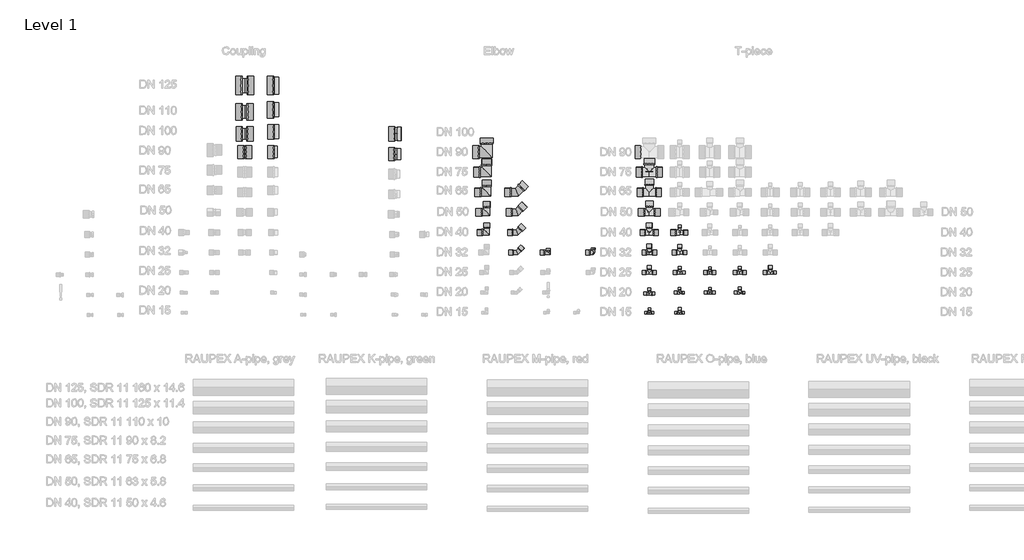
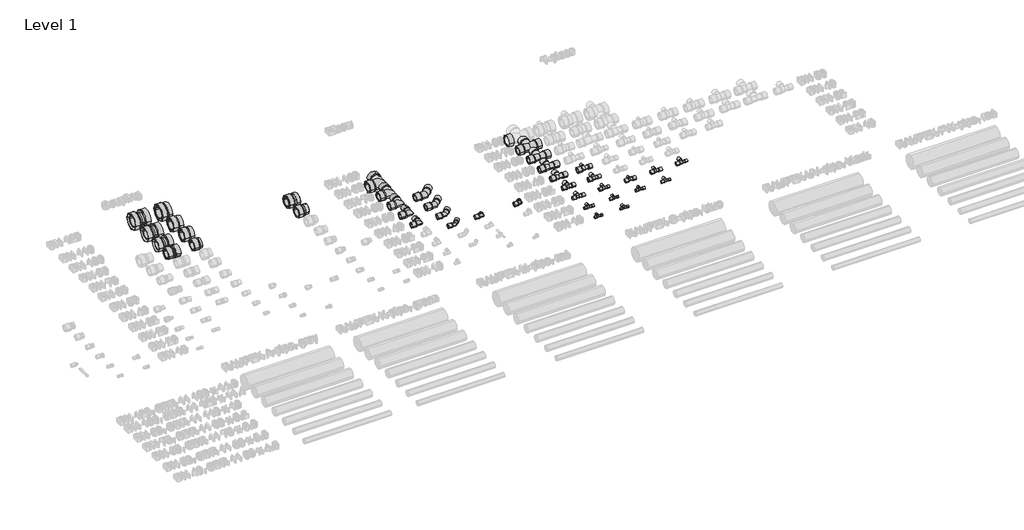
# One storey, part 4 of 16: 128 pipe fittings.
"""IFC4 building model written with IfcOpenShell, lengths in millimetres."""

from ifc_helpers import new_model, si_unit, origin, place, context, project, spatial, transform, mapped, element, save
from components import pipe_fitting_d056a93d, pipe_fitting_f6b20089, pipe_fitting_60fb9633, pipe_fitting_58d926c8, coupling_union_655df743, coupling_union_132477e5, coupling_union_b98a8659, coupling_union_d5728b00, elbow_sdr11_lx_elbow_sdr_11_lx_6126e5dd, elbow_sdr11_lx_elbow_sdr_11_lx_f17d2660, elbow_sdr11_lx_elbow_sdr_11_lx_ce320dea, elbow_sdr11_lx_elbow_sdr_11_lx_cb8a91fe, elbow_sdr11_lx_elbow_sdr_11_lx_393a3960, elbow_sdr11_lx_elbow_sdr_11_rx_da30d1f9, elbow_sdr11_lx_elbow_sdr_11_rx_8269fb62, elbow_sdr11_lx_elbow_sdr_11_rx_9d03f633, elbow_sdr11_lx_elbow_sdr_11_rx_2fe19cfb, elbow_adapter_sdr11_lx_elbow_adapter_sdr_11_lx_9b6015cc, elbow_adapter_with_union_nut_sdr_11_lx_84a4bca8, male_adapter_external_thread_sdr11_male_adapter_rx_6bbcd7e3, male_adapter_external_thread_sdr11_male_adapter_rx_e6c9b75a, sleeve_lx_11_2e170aa1, sleeve_lx_11_3fcb8560, sleeve_lx_11_f19e3dbf, sleeve_lx_11_b9b419b6, sleeve_lx_11_e5eab1a7, sleeve_lx_11_ddfe2885, sleeve_rx_11_7b1edd19, sleeve_rx_11_d7843ee1, sleeve_rx_11_d7b6a074, sleeve_rx_11_833a9f47, sleeve_rx_11_cce1b402, sleeve_rx_11_53dfce0b, t_piece_sdr11_lx_0c2399d6, t_piece_sdr11_lx_7e9e5686, t_piece_sdr11_lx_2a0a5856, t_piece_sdr11_lx_9701a7f1, t_piece_sdr11_lx_c61b86e7, t_piece_sdr11_lx_81dca7c0, t_piece_sdr11_lx_fe109eb9, t_piece_sdr11_lx_d24ca570, t_piece_sdr11_lx_0c38f34f, t_piece_sdr11_lx_75e13a52, t_piece_sdr11_lx_df0b7dc8, t_piece_sdr11_lx_472ff839, t_piece_sdr11_lx_571a734e, t_piece_sdr11_lx_4579e213, t_piece_sdr11_lx_62f51ed1, t_piece_sdr11_lx_d5a7428d, t_piece_sdr11_lx_t_piece_sdr11_rx_1e658908, t_piece_sdr11_lx_t_piece_sdr11_rx_ffd7d234

model = new_model("IFC4")

# Units and contexts
model_context = context("Model", 3, world=origin())
ifc_project = project(units=[si_unit("LENGTHUNIT", "METRE", prefix="MILLI")], contexts=[model_context])

# Site, building, storey
site = spatial("IfcSite", under=ifc_project)
building = spatial("IfcBuilding", under=site)
storey = spatial("IfcBuildingStorey", under=building, Name="Level 1", Elevation=0.0)

# Pipe fittings
placement = place(None, origin())
pipe_fitting_shape = pipe_fitting_d056a93d(model_context)
element("IfcPipeFitting", 1, ObjectType="Adapter with welding end : A welding RX", at=placement, inside=storey, context=model_context, shape_type="MappedRepresentation", body=[
    mapped(pipe_fitting_shape, transform((12403.1112925, 2700.5489138, 0.0), x_axis=(1.0, 0.0, 0.0), y_axis=(0.0, 1.0, 0.0), z_axis=(0.0, 0.0, 1.0))),
])
pipe_fitting_2_shape = pipe_fitting_f6b20089(model_context)
element("IfcPipeFitting", 2, ObjectType="Adapter with welding end : A welding RX", at=placement, inside=storey, context=model_context, shape_type="MappedRepresentation", body=[
    mapped(pipe_fitting_2_shape, transform((12403.1112925, 2040.5489138, 0.0), x_axis=(1.0, 0.0, 0.0), y_axis=(0.0, 1.0, 0.0), z_axis=(0.0, 0.0, 1.0))),
])
pipe_fitting_3_shape = pipe_fitting_60fb9633(model_context)
element("IfcPipeFitting", 3, ObjectType="Adapter with welding end : A welding RX", at=placement, inside=storey, context=model_context, shape_type="MappedRepresentation", body=[
    mapped(pipe_fitting_3_shape, transform((12403.1112925, 2240.5489138, 0.0), x_axis=(1.0, 0.0, 0.0), y_axis=(0.0, 1.0, 0.0), z_axis=(0.0, 0.0, 1.0))),
])
pipe_fitting_4_shape = pipe_fitting_58d926c8(model_context)
element("IfcPipeFitting", 4, ObjectType="Adapter with welding end : A welding RX", at=placement, inside=storey, context=model_context, shape_type="MappedRepresentation", body=[
    mapped(pipe_fitting_4_shape, transform((12403.1112925, 2460.5489138, 0.0), x_axis=(1.0, 0.0, 0.0), y_axis=(0.0, 1.0, 0.0), z_axis=(0.0, 0.0, 1.0))),
])
coupling_union_shape = coupling_union_655df743(model_context)
element("IfcPipeFitting", 5, ObjectType="Coupling union : C EQ SDR11 RX", at=placement, inside=storey, context=model_context, shape_type="MappedRepresentation", body=[
    mapped(coupling_union_shape, transform((12103.1112925, 2700.5489138, 0.0), x_axis=(1.0, 0.0, 0.0), y_axis=(0.0, 1.0, 0.0), z_axis=(0.0, 0.0, 1.0))),
])
coupling_union_2_shape = coupling_union_132477e5(model_context)
element("IfcPipeFitting", 6, ObjectType="Coupling union : C EQ SDR11 RX", at=placement, inside=storey, context=model_context, shape_type="MappedRepresentation", body=[
    mapped(coupling_union_2_shape, transform((12103.1112925, 2040.5489138, 0.0), x_axis=(1.0, 0.0, 0.0), y_axis=(0.0, 1.0, 0.0), z_axis=(0.0, 0.0, 1.0))),
])
coupling_union_3_shape = coupling_union_b98a8659(model_context)
element("IfcPipeFitting", 7, ObjectType="Coupling union : C EQ SDR11 RX", at=placement, inside=storey, context=model_context, shape_type="MappedRepresentation", body=[
    mapped(coupling_union_3_shape, transform((12103.1112925, 2220.5489138, 0.0), x_axis=(1.0, 0.0, 0.0), y_axis=(0.0, 1.0, 0.0), z_axis=(0.0, 0.0, 1.0))),
])
coupling_union_4_shape = coupling_union_d5728b00(model_context)
element("IfcPipeFitting", 8, ObjectType="Coupling union : C EQ SDR11 RX", at=placement, inside=storey, context=model_context, shape_type="MappedRepresentation", body=[
    mapped(coupling_union_4_shape, transform((12103.1112925, 2440.5489138, 0.0), x_axis=(1.0, 0.0, 0.0), y_axis=(0.0, 1.0, 0.0), z_axis=(0.0, 0.0, 1.0))),
])
elbow_sdr11_lx_elbow_sdr_11_lx_shape = elbow_sdr11_lx_elbow_sdr_11_lx_6126e5dd(model_context)
element("IfcPipeFitting", 9, ObjectType="Elbow SDR11 LX : Elbow SDR 11 LX", at=placement, inside=storey, context=model_context, shape_type="MappedRepresentation", body=[
    mapped(elbow_sdr11_lx_elbow_sdr_11_lx_shape, transform((14509.6158086, 1240.5489138, 0.0), x_axis=(1.0, 0.0, 0.0), y_axis=(0.0, 1.0, 0.0), z_axis=(0.0, 0.0, 1.0))),
])
elbow_sdr11_lx_elbow_sdr_11_lx_2_shape = elbow_sdr11_lx_elbow_sdr_11_lx_f17d2660(model_context)
element("IfcPipeFitting", 10, ObjectType="Elbow SDR11 LX : Elbow SDR 11 LX", at=placement, inside=storey, context=model_context, shape_type="MappedRepresentation", body=[
    mapped(elbow_sdr11_lx_elbow_sdr_11_lx_2_shape, transform((14509.6158086, 1440.5489138, 0.0), x_axis=(1.0, 0.0, 0.0), y_axis=(0.0, 1.0, 0.0), z_axis=(0.0, 0.0, 1.0))),
])
elbow_sdr11_lx_elbow_sdr_11_lx_3_shape = elbow_sdr11_lx_elbow_sdr_11_lx_ce320dea(model_context)
element("IfcPipeFitting", 11, ObjectType="Elbow SDR11 LX : Elbow SDR 11 LX", at=placement, inside=storey, context=model_context, shape_type="MappedRepresentation", body=[
    mapped(elbow_sdr11_lx_elbow_sdr_11_lx_3_shape, transform((14809.6158086, 1040.5489138, 0.0), x_axis=(1.0, 0.0, 0.0), y_axis=(0.0, 1.0, 0.0), z_axis=(0.0, 0.0, 1.0))),
])
elbow_sdr11_lx_elbow_sdr_11_lx_4_shape = elbow_sdr11_lx_elbow_sdr_11_lx_cb8a91fe(model_context)
element("IfcPipeFitting", 12, ObjectType="Elbow SDR11 LX : Elbow SDR 11 LX", at=placement, inside=storey, context=model_context, shape_type="MappedRepresentation", body=[
    mapped(elbow_sdr11_lx_elbow_sdr_11_lx_4_shape, transform((14809.6158086, 1240.5489138, 0.0), x_axis=(1.0, 0.0, 0.0), y_axis=(0.0, 1.0, 0.0), z_axis=(0.0, 0.0, 1.0))),
])
elbow_sdr11_lx_elbow_sdr_11_lx_5_shape = elbow_sdr11_lx_elbow_sdr_11_lx_393a3960(model_context)
element("IfcPipeFitting", 13, ObjectType="Elbow SDR11 LX : Elbow SDR 11 LX", at=placement, inside=storey, context=model_context, shape_type="MappedRepresentation", body=[
    mapped(elbow_sdr11_lx_elbow_sdr_11_lx_5_shape, transform((14809.6158086, 1440.5489138, 0.0), x_axis=(1.0, 0.0, 0.0), y_axis=(0.0, 1.0, 0.0), z_axis=(0.0, 0.0, 1.0))),
])
elbow_sdr11_lx_elbow_sdr_11_rx_shape = elbow_sdr11_lx_elbow_sdr_11_rx_da30d1f9(model_context)
element("IfcPipeFitting", 14, ObjectType="Elbow SDR11 LX : Elbow SDR 11 RX", at=placement, inside=storey, context=model_context, shape_type="MappedRepresentation", body=[
    mapped(elbow_sdr11_lx_elbow_sdr_11_rx_shape, transform((14509.6158086, 1640.5489138, 0.0), x_axis=(1.0, 0.0, 0.0), y_axis=(0.0, 1.0, 0.0), z_axis=(0.0, 0.0, 1.0))),
])
elbow_sdr11_lx_elbow_sdr_11_rx_2_shape = elbow_sdr11_lx_elbow_sdr_11_rx_8269fb62(model_context)
element("IfcPipeFitting", 15, ObjectType="Elbow SDR11 LX : Elbow SDR 11 RX", at=placement, inside=storey, context=model_context, shape_type="MappedRepresentation", body=[
    mapped(elbow_sdr11_lx_elbow_sdr_11_rx_2_shape, transform((14509.6158086, 1840.5489138, 0.0), x_axis=(1.0, 0.0, 0.0), y_axis=(0.0, 1.0, 0.0), z_axis=(0.0, 0.0, 1.0))),
])
elbow_sdr11_lx_elbow_sdr_11_rx_3_shape = elbow_sdr11_lx_elbow_sdr_11_rx_9d03f633(model_context)
element("IfcPipeFitting", 16, ObjectType="Elbow SDR11 LX : Elbow SDR 11 RX", at=placement, inside=storey, context=model_context, shape_type="MappedRepresentation", body=[
    mapped(elbow_sdr11_lx_elbow_sdr_11_rx_3_shape, transform((14509.6158086, 2040.5489138, 0.0), x_axis=(1.0, 0.0, 0.0), y_axis=(0.0, 1.0, 0.0), z_axis=(0.0, 0.0, 1.0))),
])
elbow_sdr11_lx_elbow_sdr_11_rx_4_shape = elbow_sdr11_lx_elbow_sdr_11_rx_2fe19cfb(model_context)
element("IfcPipeFitting", 17, ObjectType="Elbow SDR11 LX : Elbow SDR 11 RX", at=placement, inside=storey, context=model_context, shape_type="MappedRepresentation", body=[
    mapped(elbow_sdr11_lx_elbow_sdr_11_rx_4_shape, transform((14809.6158086, 1640.5489138, 0.0), x_axis=(1.0, 0.0, 0.0), y_axis=(0.0, 1.0, 0.0), z_axis=(0.0, 0.0, 1.0))),
])
elbow_adapter_sdr11_lx_elbow_adapter_sdr_11_lx_shape = elbow_adapter_sdr11_lx_elbow_adapter_sdr_11_lx_9b6015cc(model_context)
element("IfcPipeFitting", 18, ObjectType="Elbow adapter SDR11 LX : Elbow adapter SDR 11 LX", at=placement, inside=storey, context=model_context, shape_type="MappedRepresentation", body=[
    mapped(elbow_adapter_sdr11_lx_elbow_adapter_sdr_11_lx_shape, transform((15121.1751687, 1040.5489138, 0.0), x_axis=(1.0, 0.0, 0.0), y_axis=(0.0, 1.0, 0.0), z_axis=(0.0, 0.0, 1.0))),
])
elbow_adapter_with_union_nut_sdr_11_lx_shape = elbow_adapter_with_union_nut_sdr_11_lx_84a4bca8(model_context)
element("IfcPipeFitting", 19, ObjectType="Elbow adapter with union nut SDR11 LX  : Elbow adapter with union nut SDR 11 LX", at=placement, inside=storey, context=model_context, shape_type="MappedRepresentation", body=[
    mapped(elbow_adapter_with_union_nut_sdr_11_lx_shape, transform((15569.0164475, 1040.5489138, 0.0), x_axis=(1.0, 0.0, 0.0), y_axis=(0.0, 1.0, 0.0), z_axis=(0.0, 0.0, 1.0))),
])
male_adapter_external_thread_sdr11_male_adapter_rx_shape = male_adapter_external_thread_sdr11_male_adapter_rx_6bbcd7e3(model_context)
element("IfcPipeFitting", 20, ObjectType="Male adapter external thread SDR11 : Male adapter RX", at=placement, inside=storey, context=model_context, shape_type="MappedRepresentation", body=[
    mapped(male_adapter_external_thread_sdr11_male_adapter_rx_shape, transform((13596.8014725, 2020.5489138, 0.0), x_axis=(1.0, 0.0, 0.0), y_axis=(0.0, 1.0, 0.0), z_axis=(0.0, 0.0, 1.0))),
])
male_adapter_external_thread_sdr11_male_adapter_rx_2_shape = male_adapter_external_thread_sdr11_male_adapter_rx_e6c9b75a(model_context)
element("IfcPipeFitting", 21, ObjectType="Male adapter external thread SDR11 : Male adapter RX", at=placement, inside=storey, context=model_context, shape_type="MappedRepresentation", body=[
    mapped(male_adapter_external_thread_sdr11_male_adapter_rx_2_shape, transform((13596.8014725, 2220.5489138, 0.0), x_axis=(1.0, 0.0, 0.0), y_axis=(0.0, 1.0, 0.0), z_axis=(0.0, 0.0, 1.0))),
])
sleeve_lx_11_shape = sleeve_lx_11_2e170aa1(model_context)
element("IfcPipeFitting", 22, ObjectType="Sleeve : LX 11", at=placement, inside=storey, context=model_context, shape_type="MappedRepresentation", body=[
    mapped(sleeve_lx_11_shape, transform((16056.7141419, 840.5489138, 0.0), x_axis=(1.0, 0.0, 0.0), y_axis=(0.0, 1.0, 0.0), z_axis=(0.0, 0.0, 1.0))),
])
element("IfcPipeFitting", 23, ObjectType="Sleeve : LX 11", at=placement, inside=storey, context=model_context, shape_type="MappedRepresentation", body=[
    mapped(sleeve_lx_11_shape, transform((16126.2141419, 875.5489138, 0.0), x_axis=(0.0, 1.0, 0.0), y_axis=(-1.0, 0.0, 0.0), z_axis=(0.0, 0.0, 1.0))),
])
element("IfcPipeFitting", 24, ObjectType="Sleeve : LX 11", at=placement, inside=storey, context=model_context, shape_type="MappedRepresentation", body=[
    mapped(sleeve_lx_11_shape, transform((16160.7141419, 840.5489138, 0.0), x_axis=(1.0, 0.0, 0.0), y_axis=(0.0, 1.0, 0.0), z_axis=(0.0, 0.0, 1.0))),
])
element("IfcPipeFitting", 25, ObjectType="Sleeve : LX 11", at=placement, inside=storey, context=model_context, shape_type="MappedRepresentation", body=[
    mapped(sleeve_lx_11_shape, transform((16361.4141419, 840.5489138, 0.0), x_axis=(1.0, 0.0, 0.0), y_axis=(0.0, 1.0, 0.0), z_axis=(0.0, 0.0, 1.0))),
])
element("IfcPipeFitting", 26, ObjectType="Sleeve : LX 11", at=placement, inside=storey, context=model_context, shape_type="MappedRepresentation", body=[
    mapped(sleeve_lx_11_shape, transform((16426.2141419, 1082.5489138, 0.0), x_axis=(0.0, 1.0, 0.0), y_axis=(-1.0, 0.0, 0.0), z_axis=(0.0, 0.0, 1.0))),
])
element("IfcPipeFitting", 27, ObjectType="Sleeve : LX 11", at=placement, inside=storey, context=model_context, shape_type="MappedRepresentation", body=[
    mapped(sleeve_lx_11_shape, transform((16461.2141419, 1040.5489138, 0.0), x_axis=(1.0, 0.0, 0.0), y_axis=(0.0, 1.0, 0.0), z_axis=(0.0, 0.0, 1.0))),
])
element("IfcPipeFitting", 28, ObjectType="Sleeve : LX 11", at=placement, inside=storey, context=model_context, shape_type="MappedRepresentation", body=[
    mapped(sleeve_lx_11_shape, transform((16665.2141419, 840.5489138, 0.0), x_axis=(1.0, 0.0, 0.0), y_axis=(0.0, 1.0, 0.0), z_axis=(0.0, 0.0, 1.0))),
])
element("IfcPipeFitting", 29, ObjectType="Sleeve : LX 11", at=placement, inside=storey, context=model_context, shape_type="MappedRepresentation", body=[
    mapped(sleeve_lx_11_shape, transform((16752.2141419, 840.5489138, 0.0), x_axis=(1.0, 0.0, 0.0), y_axis=(0.0, 1.0, 0.0), z_axis=(0.0, 0.0, 1.0))),
])
element("IfcPipeFitting", 30, ObjectType="Sleeve : LX 11", at=placement, inside=storey, context=model_context, shape_type="MappedRepresentation", body=[
    mapped(sleeve_lx_11_shape, transform((16961.7141419, 840.5489138, 0.0), x_axis=(1.0, 0.0, 0.0), y_axis=(0.0, 1.0, 0.0), z_axis=(0.0, 0.0, 1.0))),
])
element("IfcPipeFitting", 31, ObjectType="Sleeve : LX 11", at=placement, inside=storey, context=model_context, shape_type="MappedRepresentation", body=[
    mapped(sleeve_lx_11_shape, transform((17055.7141419, 840.5489138, 0.0), x_axis=(1.0, 0.0, 0.0), y_axis=(0.0, 1.0, 0.0), z_axis=(0.0, 0.0, 1.0))),
])
element("IfcPipeFitting", 32, ObjectType="Sleeve : LX 11", at=placement, inside=storey, context=model_context, shape_type="MappedRepresentation", body=[
    mapped(sleeve_lx_11_shape, transform((17256.7141419, 840.5489138, 0.0), x_axis=(1.0, 0.0, 0.0), y_axis=(0.0, 1.0, 0.0), z_axis=(0.0, 0.0, 1.0))),
])
element("IfcPipeFitting", 33, ObjectType="Sleeve : LX 11", at=placement, inside=storey, context=model_context, shape_type="MappedRepresentation", body=[
    mapped(sleeve_lx_11_shape, transform((17326.2141419, 875.9489138, 0.0), x_axis=(0.0, 1.0, 0.0), y_axis=(-1.0, 0.0, 0.0), z_axis=(0.0, 0.0, 1.0))),
])
sleeve_lx_11_2_shape = sleeve_lx_11_3fcb8560(model_context)
element("IfcPipeFitting", 34, ObjectType="Sleeve : LX 11", at=placement, inside=storey, context=model_context, shape_type="MappedRepresentation", body=[
    mapped(sleeve_lx_11_2_shape, transform((16081.2141419, 440.5489138, 0.0), x_axis=(1.0, 0.0, 0.0), y_axis=(0.0, 1.0, 0.0), z_axis=(0.0, 0.0, 1.0))),
])
element("IfcPipeFitting", 35, ObjectType="Sleeve : LX 11", at=placement, inside=storey, context=model_context, shape_type="MappedRepresentation", body=[
    mapped(sleeve_lx_11_2_shape, transform((16126.2141419, 468.9489138, 0.0), x_axis=(0.0, 1.0, 0.0), y_axis=(-1.0, 0.0, 0.0), z_axis=(0.0, 0.0, 1.0))),
])
element("IfcPipeFitting", 36, ObjectType="Sleeve : LX 11", at=placement, inside=storey, context=model_context, shape_type="MappedRepresentation", body=[
    mapped(sleeve_lx_11_2_shape, transform((16151.2141419, 440.5489138, 0.0), x_axis=(1.0, 0.0, 0.0), y_axis=(0.0, 1.0, 0.0), z_axis=(0.0, 0.0, 1.0))),
])
element("IfcPipeFitting", 37, ObjectType="Sleeve : LX 11", at=placement, inside=storey, context=model_context, shape_type="MappedRepresentation", body=[
    mapped(sleeve_lx_11_2_shape, transform((16426.2141419, 671.6489138, 0.0), x_axis=(0.0, 1.0, 0.0), y_axis=(-1.0, 0.0, 0.0), z_axis=(0.0, 0.0, 1.0))),
])
element("IfcPipeFitting", 38, ObjectType="Sleeve : LX 11", at=placement, inside=storey, context=model_context, shape_type="MappedRepresentation", body=[
    mapped(sleeve_lx_11_2_shape, transform((16451.2141419, 640.5489138, 0.0), x_axis=(1.0, 0.0, 0.0), y_axis=(0.0, 1.0, 0.0), z_axis=(0.0, 0.0, 1.0))),
])
element("IfcPipeFitting", 39, ObjectType="Sleeve : LX 11", at=placement, inside=storey, context=model_context, shape_type="MappedRepresentation", body=[
    mapped(sleeve_lx_11_2_shape, transform((16726.2141419, 671.6489138, 0.0), x_axis=(0.0, 1.0, 0.0), y_axis=(-1.0, 0.0, 0.0), z_axis=(0.0, 0.0, 1.0))),
])
element("IfcPipeFitting", 40, ObjectType="Sleeve : LX 11", at=placement, inside=storey, context=model_context, shape_type="MappedRepresentation", body=[
    mapped(sleeve_lx_11_2_shape, transform((16726.2141419, 875.5489138, 0.0), x_axis=(0.0, 1.0, 0.0), y_axis=(-1.0, 0.0, 0.0), z_axis=(0.0, 0.0, 1.0))),
])
element("IfcPipeFitting", 41, ObjectType="Sleeve : LX 11", at=placement, inside=storey, context=model_context, shape_type="MappedRepresentation", body=[
    mapped(sleeve_lx_11_2_shape, transform((16377.7141419, 440.5489138, 0.0), x_axis=(1.0, 0.0, 0.0), y_axis=(0.0, 1.0, 0.0), z_axis=(0.0, 0.0, 1.0))),
])
element("IfcPipeFitting", 42, ObjectType="Sleeve : LX 11", at=placement, inside=storey, context=model_context, shape_type="MappedRepresentation", body=[
    mapped(sleeve_lx_11_2_shape, transform((16454.7141419, 440.5489138, 0.0), x_axis=(1.0, 0.0, 0.0), y_axis=(0.0, 1.0, 0.0), z_axis=(0.0, 0.0, 1.0))),
])
element("IfcPipeFitting", 43, ObjectType="Sleeve : LX 11", at=placement, inside=storey, context=model_context, shape_type="MappedRepresentation", body=[
    mapped(sleeve_lx_11_2_shape, transform((17054.2141419, 640.5489138, 0.0), x_axis=(1.0, 0.0, 0.0), y_axis=(0.0, 1.0, 0.0), z_axis=(0.0, 0.0, 1.0))),
])
sleeve_lx_11_3_shape = sleeve_lx_11_f19e3dbf(model_context)
element("IfcPipeFitting", 44, ObjectType="Sleeve : LX 11", at=placement, inside=storey, context=model_context, shape_type="MappedRepresentation", body=[
    mapped(sleeve_lx_11_3_shape, transform((16070.7141419, 630.5489138, 0.0), x_axis=(1.0, 0.0, 0.0), y_axis=(0.0, 1.0, 0.0), z_axis=(0.0, 0.0, 1.0))),
])
element("IfcPipeFitting", 45, ObjectType="Sleeve : LX 11", at=placement, inside=storey, context=model_context, shape_type="MappedRepresentation", body=[
    mapped(sleeve_lx_11_3_shape, transform((16126.2141419, 661.6489138, 0.0), x_axis=(0.0, 1.0, 0.0), y_axis=(-1.0, 0.0, 0.0), z_axis=(0.0, 0.0, 1.0))),
])
element("IfcPipeFitting", 46, ObjectType="Sleeve : LX 11", at=placement, inside=storey, context=model_context, shape_type="MappedRepresentation", body=[
    mapped(sleeve_lx_11_3_shape, transform((16154.7141419, 630.5489138, 0.0), x_axis=(1.0, 0.0, 0.0), y_axis=(0.0, 1.0, 0.0), z_axis=(0.0, 0.0, 1.0))),
])
element("IfcPipeFitting", 47, ObjectType="Sleeve : LX 11", at=placement, inside=storey, context=model_context, shape_type="MappedRepresentation", body=[
    mapped(sleeve_lx_11_3_shape, transform((16374.2141419, 640.5489138, 0.0), x_axis=(1.0, 0.0, 0.0), y_axis=(0.0, 1.0, 0.0), z_axis=(0.0, 0.0, 1.0))),
])
element("IfcPipeFitting", 48, ObjectType="Sleeve : LX 11", at=placement, inside=storey, context=model_context, shape_type="MappedRepresentation", body=[
    mapped(sleeve_lx_11_3_shape, transform((16426.2141419, 874.5489138, 0.0), x_axis=(0.0, 1.0, 0.0), y_axis=(-1.0, 0.0, 0.0), z_axis=(0.0, 0.0, 1.0))),
])
element("IfcPipeFitting", 49, ObjectType="Sleeve : LX 11", at=placement, inside=storey, context=model_context, shape_type="MappedRepresentation", body=[
    mapped(sleeve_lx_11_3_shape, transform((16455.0141419, 840.5489138, 0.0), x_axis=(1.0, 0.0, 0.0), y_axis=(0.0, 1.0, 0.0), z_axis=(0.0, 0.0, 1.0))),
])
element("IfcPipeFitting", 50, ObjectType="Sleeve : LX 11", at=placement, inside=storey, context=model_context, shape_type="MappedRepresentation", body=[
    mapped(sleeve_lx_11_3_shape, transform((16426.2141419, 1286.4489138, 0.0), x_axis=(0.0, 1.0, 0.0), y_axis=(-1.0, 0.0, 0.0), z_axis=(0.0, 0.0, 1.0))),
])
element("IfcPipeFitting", 51, ObjectType="Sleeve : LX 11", at=placement, inside=storey, context=model_context, shape_type="MappedRepresentation", body=[
    mapped(sleeve_lx_11_3_shape, transform((16673.7141419, 640.5489138, 0.0), x_axis=(1.0, 0.0, 0.0), y_axis=(0.0, 1.0, 0.0), z_axis=(0.0, 0.0, 1.0))),
])
element("IfcPipeFitting", 52, ObjectType="Sleeve : LX 11", at=placement, inside=storey, context=model_context, shape_type="MappedRepresentation", body=[
    mapped(sleeve_lx_11_3_shape, transform((16751.7141419, 640.5489138, 0.0), x_axis=(1.0, 0.0, 0.0), y_axis=(0.0, 1.0, 0.0), z_axis=(0.0, 0.0, 1.0))),
])
element("IfcPipeFitting", 53, ObjectType="Sleeve : LX 11", at=placement, inside=storey, context=model_context, shape_type="MappedRepresentation", body=[
    mapped(sleeve_lx_11_3_shape, transform((17026.2141419, 875.5489138, 0.0), x_axis=(0.0, 1.0, 0.0), y_axis=(-1.0, 0.0, 0.0), z_axis=(0.0, 0.0, 1.0))),
])
element("IfcPipeFitting", 54, ObjectType="Sleeve : LX 11", at=placement, inside=storey, context=model_context, shape_type="MappedRepresentation", body=[
    mapped(sleeve_lx_11_3_shape, transform((16426.2141419, 465.9489138, 0.0), x_axis=(0.0, 1.0, 0.0), y_axis=(-1.0, 0.0, 0.0), z_axis=(0.0, 0.0, 1.0))),
])
element("IfcPipeFitting", 55, ObjectType="Sleeve : LX 11", at=placement, inside=storey, context=model_context, shape_type="MappedRepresentation", body=[
    mapped(sleeve_lx_11_3_shape, transform((16971.2141419, 640.5489138, 0.0), x_axis=(1.0, 0.0, 0.0), y_axis=(0.0, 1.0, 0.0), z_axis=(0.0, 0.0, 1.0))),
])
element("IfcPipeFitting", 56, ObjectType="Sleeve : LX 11", at=placement, inside=storey, context=model_context, shape_type="MappedRepresentation", body=[
    mapped(sleeve_lx_11_3_shape, transform((17026.2141419, 672.0489138, 0.0), x_axis=(0.0, 1.0, 0.0), y_axis=(-1.0, 0.0, 0.0), z_axis=(0.0, 0.0, 1.0))),
])
element("IfcPipeFitting", 57, ObjectType="Sleeve : LX 11", at=placement, inside=storey, context=model_context, shape_type="MappedRepresentation", body=[
    mapped(sleeve_lx_11_3_shape, transform((17359.7141419, 840.5489138, 0.0), x_axis=(1.0, 0.0, 0.0), y_axis=(0.0, 1.0, 0.0), z_axis=(0.0, 0.0, 1.0))),
])
sleeve_lx_11_4_shape = sleeve_lx_11_b9b419b6(model_context)
element("IfcPipeFitting", 58, ObjectType="Sleeve : LX 11", at=placement, inside=storey, context=model_context, shape_type="MappedRepresentation", body=[
    mapped(sleeve_lx_11_4_shape, transform((15041.6751687, 1040.5489138, 0.0), x_axis=(1.0, 0.0, 0.0), y_axis=(0.0, 1.0, 0.0), z_axis=(0.0, 0.0, 1.0))),
])
element("IfcPipeFitting", 59, ObjectType="Sleeve : LX 11", at=placement, inside=storey, context=model_context, shape_type="MappedRepresentation", body=[
    mapped(sleeve_lx_11_4_shape, transform((15493.5164475, 1040.5489138, 0.0), x_axis=(1.0, 0.0, 0.0), y_axis=(0.0, 1.0, 0.0), z_axis=(0.0, 0.0, 1.0))),
])
element("IfcPipeFitting", 60, ObjectType="Sleeve : LX 11", at=placement, inside=storey, context=model_context, shape_type="MappedRepresentation", body=[
    mapped(sleeve_lx_11_4_shape, transform((14729.4158086, 1040.5489138, 0.0), x_axis=(1.0, 0.0, 0.0), y_axis=(0.0, 1.0, 0.0), z_axis=(0.0, 0.0, 1.0))),
])
element("IfcPipeFitting", 61, ObjectType="Sleeve : LX 11", at=placement, inside=storey, context=model_context, shape_type="MappedRepresentation", body=[
    mapped(sleeve_lx_11_4_shape, transform((14866.3257725, 1097.2588777, 0.0), x_axis=(-0.707106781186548, -0.707106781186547, 0.0), y_axis=(0.707106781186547, -0.707106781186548, 0.0), z_axis=(0.0, 0.0, 1.0))),
])
element("IfcPipeFitting", 62, ObjectType="Sleeve : LX 11", at=placement, inside=storey, context=model_context, shape_type="MappedRepresentation", body=[
    mapped(sleeve_lx_11_4_shape, transform((16054.9141419, 1040.5489138, 0.0), x_axis=(1.0, 0.0, 0.0), y_axis=(0.0, 1.0, 0.0), z_axis=(0.0, 0.0, 1.0))),
])
element("IfcPipeFitting", 63, ObjectType="Sleeve : LX 11", at=placement, inside=storey, context=model_context, shape_type="MappedRepresentation", body=[
    mapped(sleeve_lx_11_4_shape, transform((16126.2141419, 1085.8489138, 0.0), x_axis=(0.0, 1.0, 0.0), y_axis=(-1.0, 0.0, 0.0), z_axis=(0.0, 0.0, 1.0))),
])
element("IfcPipeFitting", 64, ObjectType="Sleeve : LX 11", at=placement, inside=storey, context=model_context, shape_type="MappedRepresentation", body=[
    mapped(sleeve_lx_11_4_shape, transform((16160.5141419, 1040.5489138, 0.0), x_axis=(1.0, 0.0, 0.0), y_axis=(0.0, 1.0, 0.0), z_axis=(0.0, 0.0, 1.0))),
])
element("IfcPipeFitting", 65, ObjectType="Sleeve : LX 11", at=placement, inside=storey, context=model_context, shape_type="MappedRepresentation", body=[
    mapped(sleeve_lx_11_4_shape, transform((16354.2141419, 1040.5489138, 0.0), x_axis=(1.0, 0.0, 0.0), y_axis=(0.0, 1.0, 0.0), z_axis=(0.0, 0.0, 1.0))),
])
element("IfcPipeFitting", 66, ObjectType="Sleeve : LX 11", at=placement, inside=storey, context=model_context, shape_type="MappedRepresentation", body=[
    mapped(sleeve_lx_11_4_shape, transform((16469.2141419, 1240.5489138, 0.0), x_axis=(1.0, 0.0, 0.0), y_axis=(0.0, 1.0, 0.0), z_axis=(0.0, 0.0, 1.0))),
])
sleeve_lx_11_5_shape = sleeve_lx_11_e5eab1a7(model_context)
element("IfcPipeFitting", 67, ObjectType="Sleeve : LX 11", at=placement, inside=storey, context=model_context, shape_type="MappedRepresentation", body=[
    mapped(sleeve_lx_11_5_shape, transform((14417.1158086, 1240.5489138, 0.0), x_axis=(1.0, 0.0, 0.0), y_axis=(0.0, 1.0, 0.0), z_axis=(0.0, 0.0, 1.0))),
])
element("IfcPipeFitting", 68, ObjectType="Sleeve : LX 11", at=placement, inside=storey, context=model_context, shape_type="MappedRepresentation", body=[
    mapped(sleeve_lx_11_5_shape, transform((14509.6158086, 1333.0489138, 0.0), x_axis=(0.0, -1.0, 0.0), y_axis=(1.0, 0.0, 0.0), z_axis=(0.0, 0.0, 1.0))),
])
element("IfcPipeFitting", 69, ObjectType="Sleeve : LX 11", at=placement, inside=storey, context=model_context, shape_type="MappedRepresentation", body=[
    mapped(sleeve_lx_11_5_shape, transform((14717.1158086, 1240.5489138, 0.0), x_axis=(1.0, 0.0, 0.0), y_axis=(0.0, 1.0, 0.0), z_axis=(0.0, 0.0, 1.0))),
])
element("IfcPipeFitting", 70, ObjectType="Sleeve : LX 11", at=placement, inside=storey, context=model_context, shape_type="MappedRepresentation", body=[
    mapped(sleeve_lx_11_5_shape, transform((14875.0231859, 1305.9562911, 0.0), x_axis=(-0.707106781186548, -0.707106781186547, 0.0), y_axis=(0.707106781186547, -0.707106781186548, 0.0), z_axis=(0.0, 0.0, 1.0))),
])
element("IfcPipeFitting", 71, ObjectType="Sleeve : LX 11", at=placement, inside=storey, context=model_context, shape_type="MappedRepresentation", body=[
    mapped(sleeve_lx_11_5_shape, transform((16036.4141419, 1240.5489138, 0.0), x_axis=(1.0, 0.0, 0.0), y_axis=(0.0, 1.0, 0.0), z_axis=(0.0, 0.0, 1.0))),
])
element("IfcPipeFitting", 72, ObjectType="Sleeve : LX 11", at=placement, inside=storey, context=model_context, shape_type="MappedRepresentation", body=[
    mapped(sleeve_lx_11_5_shape, transform((16126.2141419, 1289.7489138, 0.0), x_axis=(0.0, 1.0, 0.0), y_axis=(-1.0, 0.0, 0.0), z_axis=(0.0, 0.0, 1.0))),
])
element("IfcPipeFitting", 73, ObjectType="Sleeve : LX 11", at=placement, inside=storey, context=model_context, shape_type="MappedRepresentation", body=[
    mapped(sleeve_lx_11_5_shape, transform((16172.0141419, 1240.5489138, 0.0), x_axis=(1.0, 0.0, 0.0), y_axis=(0.0, 1.0, 0.0), z_axis=(0.0, 0.0, 1.0))),
])
element("IfcPipeFitting", 74, ObjectType="Sleeve : LX 11", at=placement, inside=storey, context=model_context, shape_type="MappedRepresentation", body=[
    mapped(sleeve_lx_11_5_shape, transform((16340.6141419, 1240.5489138, 0.0), x_axis=(1.0, 0.0, 0.0), y_axis=(0.0, 1.0, 0.0), z_axis=(0.0, 0.0, 1.0))),
])
sleeve_lx_11_6_shape = sleeve_lx_11_ddfe2885(model_context)
element("IfcPipeFitting", 75, ObjectType="Sleeve : LX 11", at=placement, inside=storey, context=model_context, shape_type="MappedRepresentation", body=[
    mapped(sleeve_lx_11_6_shape, transform((14401.3158086, 1440.5489138, 0.0), x_axis=(1.0, 0.0, 0.0), y_axis=(0.0, 1.0, 0.0), z_axis=(0.0, 0.0, 1.0))),
])
element("IfcPipeFitting", 76, ObjectType="Sleeve : LX 11", at=placement, inside=storey, context=model_context, shape_type="MappedRepresentation", body=[
    mapped(sleeve_lx_11_6_shape, transform((14509.6158086, 1548.8489138, 0.0), x_axis=(0.0, -1.0, 0.0), y_axis=(1.0, 0.0, 0.0), z_axis=(0.0, 0.0, 1.0))),
])
element("IfcPipeFitting", 77, ObjectType="Sleeve : LX 11", at=placement, inside=storey, context=model_context, shape_type="MappedRepresentation", body=[
    mapped(sleeve_lx_11_6_shape, transform((14701.3158086, 1440.5489138, 0.0), x_axis=(1.0, 0.0, 0.0), y_axis=(0.0, 1.0, 0.0), z_axis=(0.0, 0.0, 1.0))),
])
element("IfcPipeFitting", 78, ObjectType="Sleeve : LX 11", at=placement, inside=storey, context=model_context, shape_type="MappedRepresentation", body=[
    mapped(sleeve_lx_11_6_shape, transform((14886.195473, 1517.1285782, 0.0), x_axis=(-0.707106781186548, -0.707106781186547, 0.0), y_axis=(0.707106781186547, -0.707106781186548, 0.0), z_axis=(0.0, 0.0, 1.0))),
])
element("IfcPipeFitting", 79, ObjectType="Sleeve : LX 11", at=placement, inside=storey, context=model_context, shape_type="MappedRepresentation", body=[
    mapped(sleeve_lx_11_6_shape, transform((16017.4141419, 1440.5489138, 0.0), x_axis=(1.0, 0.0, 0.0), y_axis=(0.0, 1.0, 0.0), z_axis=(0.0, 0.0, 1.0))),
])
element("IfcPipeFitting", 80, ObjectType="Sleeve : LX 11", at=placement, inside=storey, context=model_context, shape_type="MappedRepresentation", body=[
    mapped(sleeve_lx_11_6_shape, transform((16126.2141419, 1500.5489138, 0.0), x_axis=(0.0, 1.0, 0.0), y_axis=(-1.0, 0.0, 0.0), z_axis=(0.0, 0.0, 1.0))),
])
element("IfcPipeFitting", 81, ObjectType="Sleeve : LX 11", at=placement, inside=storey, context=model_context, shape_type="MappedRepresentation", body=[
    mapped(sleeve_lx_11_6_shape, transform((16182.0141419, 1440.5489138, 0.0), x_axis=(1.0, 0.0, 0.0), y_axis=(0.0, 1.0, 0.0), z_axis=(0.0, 0.0, 1.0))),
])
sleeve_rx_11_shape = sleeve_rx_11_7b1edd19(model_context)
element("IfcPipeFitting", 82, ObjectType="Sleeve : RX 11", at=placement, inside=storey, context=model_context, shape_type="MappedRepresentation", body=[
    mapped(sleeve_rx_11_shape, transform((14381.5158086, 1840.5489138, 0.0), x_axis=(1.0, 0.0, 0.0), y_axis=(0.0, 1.0, 0.0), z_axis=(0.0, 0.0, 1.0))),
])
element("IfcPipeFitting", 83, ObjectType="Sleeve : RX 11", at=placement, inside=storey, context=model_context, shape_type="MappedRepresentation", body=[
    mapped(sleeve_rx_11_shape, transform((14509.6158086, 1968.6489138, 0.0), x_axis=(0.0, -1.0, 0.0), y_axis=(1.0, 0.0, 0.0), z_axis=(0.0, 0.0, 1.0))),
])
element("IfcPipeFitting", 84, ObjectType="Sleeve : RX 11", at=placement, inside=storey, context=model_context, shape_type="MappedRepresentation", body=[
    mapped(sleeve_rx_11_shape, transform((15996.6141419, 1840.5489138, 0.0), x_axis=(1.0, 0.0, 0.0), y_axis=(0.0, 1.0, 0.0), z_axis=(0.0, 0.0, 1.0))),
])
element("IfcPipeFitting", 85, ObjectType="Sleeve : RX 11", at=placement, inside=storey, context=model_context, shape_type="MappedRepresentation", body=[
    mapped(sleeve_rx_11_shape, transform((16126.2141419, 1923.1489138, 0.0), x_axis=(0.0, 1.0, 0.0), y_axis=(-1.0, 0.0, 0.0), z_axis=(0.0, 0.0, 1.0))),
])
element("IfcPipeFitting", 86, ObjectType="Sleeve : RX 11", at=placement, inside=storey, context=model_context, shape_type="MappedRepresentation", body=[
    mapped(sleeve_rx_11_shape, transform((16202.8141419, 1840.5489138, 0.0), x_axis=(1.0, 0.0, 0.0), y_axis=(0.0, 1.0, 0.0), z_axis=(0.0, 0.0, 1.0))),
])
sleeve_rx_11_2_shape = sleeve_rx_11_d7843ee1(model_context)
element("IfcPipeFitting", 87, ObjectType="Sleeve : RX 11", at=placement, inside=storey, context=model_context, shape_type="MappedRepresentation", body=[
    mapped(sleeve_rx_11_2_shape, transform((12034.3112925, 2040.5489138, 0.0), x_axis=(1.0, 0.0, 0.0), y_axis=(0.0, 1.0, 0.0), z_axis=(0.0, 0.0, 1.0))),
])
element("IfcPipeFitting", 88, ObjectType="Sleeve : RX 11", at=placement, inside=storey, context=model_context, shape_type="MappedRepresentation", body=[
    mapped(sleeve_rx_11_2_shape, transform((12118.9112925, 2040.5489138, 0.0), x_axis=(1.0, 0.0, 0.0), y_axis=(0.0, 1.0, 0.0), z_axis=(0.0, 0.0, 1.0))),
])
element("IfcPipeFitting", 89, ObjectType="Sleeve : RX 11", at=placement, inside=storey, context=model_context, shape_type="MappedRepresentation", body=[
    mapped(sleeve_rx_11_2_shape, transform((13534.6014725, 2020.5489138, 0.0), x_axis=(1.0, 0.0, 0.0), y_axis=(0.0, 1.0, 0.0), z_axis=(0.0, 0.0, 1.0))),
])
element("IfcPipeFitting", 90, ObjectType="Sleeve : RX 11", at=placement, inside=storey, context=model_context, shape_type="MappedRepresentation", body=[
    mapped(sleeve_rx_11_2_shape, transform((14370.8158086, 2040.5489138, 0.0), x_axis=(1.0, 0.0, 0.0), y_axis=(0.0, 1.0, 0.0), z_axis=(0.0, 0.0, 1.0))),
])
element("IfcPipeFitting", 91, ObjectType="Sleeve : RX 11", at=placement, inside=storey, context=model_context, shape_type="MappedRepresentation", body=[
    mapped(sleeve_rx_11_2_shape, transform((14509.6158086, 2179.3489138, 0.0), x_axis=(0.0, -1.0, 0.0), y_axis=(1.0, 0.0, 0.0), z_axis=(0.0, 0.0, 1.0))),
])
element("IfcPipeFitting", 92, ObjectType="Sleeve : RX 11", at=placement, inside=storey, context=model_context, shape_type="MappedRepresentation", body=[
    mapped(sleeve_rx_11_2_shape, transform((15986.0141419, 2040.5489138, 0.0), x_axis=(1.0, 0.0, 0.0), y_axis=(0.0, 1.0, 0.0), z_axis=(0.0, 0.0, 1.0))),
])
element("IfcPipeFitting", 93, ObjectType="Sleeve : RX 11", at=placement, inside=storey, context=model_context, shape_type="MappedRepresentation", body=[
    mapped(sleeve_rx_11_2_shape, transform((12334.9112925, 2040.5489138, 0.0), x_axis=(1.0, 0.0, 0.0), y_axis=(0.0, 1.0, 0.0), z_axis=(0.0, 0.0, 1.0))),
])
sleeve_rx_11_3_shape = sleeve_rx_11_d7b6a074(model_context)
element("IfcPipeFitting", 94, ObjectType="Sleeve : RX 11", at=placement, inside=storey, context=model_context, shape_type="MappedRepresentation", body=[
    mapped(sleeve_rx_11_3_shape, transform((14390.6158086, 1640.5489138, 0.0), x_axis=(1.0, 0.0, 0.0), y_axis=(0.0, 1.0, 0.0), z_axis=(0.0, 0.0, 1.0))),
])
element("IfcPipeFitting", 95, ObjectType="Sleeve : RX 11", at=placement, inside=storey, context=model_context, shape_type="MappedRepresentation", body=[
    mapped(sleeve_rx_11_3_shape, transform((14509.6158086, 1759.5489138, 0.0), x_axis=(0.0, -1.0, 0.0), y_axis=(1.0, 0.0, 0.0), z_axis=(0.0, 0.0, 1.0))),
])
element("IfcPipeFitting", 96, ObjectType="Sleeve : RX 11", at=placement, inside=storey, context=model_context, shape_type="MappedRepresentation", body=[
    mapped(sleeve_rx_11_3_shape, transform((14690.6158086, 1640.5489138, 0.0), x_axis=(1.0, 0.0, 0.0), y_axis=(0.0, 1.0, 0.0), z_axis=(0.0, 0.0, 1.0))),
])
element("IfcPipeFitting", 97, ObjectType="Sleeve : RX 11", at=placement, inside=storey, context=model_context, shape_type="MappedRepresentation", body=[
    mapped(sleeve_rx_11_3_shape, transform((14893.7615156, 1724.6946208, 0.0), x_axis=(-0.707106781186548, -0.707106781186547, 0.0), y_axis=(0.707106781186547, -0.707106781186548, 0.0), z_axis=(0.0, 0.0, 1.0))),
])
element("IfcPipeFitting", 98, ObjectType="Sleeve : RX 11", at=placement, inside=storey, context=model_context, shape_type="MappedRepresentation", body=[
    mapped(sleeve_rx_11_3_shape, transform((16006.3141419, 1640.5489138, 0.0), x_axis=(1.0, 0.0, 0.0), y_axis=(0.0, 1.0, 0.0), z_axis=(0.0, 0.0, 1.0))),
])
element("IfcPipeFitting", 99, ObjectType="Sleeve : RX 11", at=placement, inside=storey, context=model_context, shape_type="MappedRepresentation", body=[
    mapped(sleeve_rx_11_3_shape, transform((16126.2141419, 1715.4489138, 0.0), x_axis=(0.0, 1.0, 0.0), y_axis=(-1.0, 0.0, 0.0), z_axis=(0.0, 0.0, 1.0))),
])
element("IfcPipeFitting", 100, ObjectType="Sleeve : RX 11", at=placement, inside=storey, context=model_context, shape_type="MappedRepresentation", body=[
    mapped(sleeve_rx_11_3_shape, transform((16193.1141419, 1640.5489138, 0.0), x_axis=(1.0, 0.0, 0.0), y_axis=(0.0, 1.0, 0.0), z_axis=(0.0, 0.0, 1.0))),
])
sleeve_rx_11_4_shape = sleeve_rx_11_833a9f47(model_context)
element("IfcPipeFitting", 101, ObjectType="Sleeve : RX 11", at=placement, inside=storey, context=model_context, shape_type="MappedRepresentation", body=[
    mapped(sleeve_rx_11_4_shape, transform((12018.6112925, 2220.5489138, 0.0), x_axis=(1.0, 0.0, 0.0), y_axis=(0.0, 1.0, 0.0), z_axis=(0.0, 0.0, 1.0))),
])
element("IfcPipeFitting", 102, ObjectType="Sleeve : RX 11", at=placement, inside=storey, context=model_context, shape_type="MappedRepresentation", body=[
    mapped(sleeve_rx_11_4_shape, transform((12134.6112925, 2220.5489138, 0.0), x_axis=(1.0, 0.0, 0.0), y_axis=(0.0, 1.0, 0.0), z_axis=(0.0, 0.0, 1.0))),
])
element("IfcPipeFitting", 103, ObjectType="Sleeve : RX 11", at=placement, inside=storey, context=model_context, shape_type="MappedRepresentation", body=[
    mapped(sleeve_rx_11_4_shape, transform((13536.3014725, 2220.5489138, 0.0), x_axis=(1.0, 0.0, 0.0), y_axis=(0.0, 1.0, 0.0), z_axis=(0.0, 0.0, 1.0))),
])
element("IfcPipeFitting", 104, ObjectType="Sleeve : RX 11", at=placement, inside=storey, context=model_context, shape_type="MappedRepresentation", body=[
    mapped(sleeve_rx_11_4_shape, transform((12333.4112925, 2240.5489138, 0.0), x_axis=(1.0, 0.0, 0.0), y_axis=(0.0, 1.0, 0.0), z_axis=(0.0, 0.0, 1.0))),
])
sleeve_rx_11_5_shape = sleeve_rx_11_cce1b402(model_context)
element("IfcPipeFitting", 105, ObjectType="Sleeve : RX 11", at=placement, inside=storey, context=model_context, shape_type="MappedRepresentation", body=[
    mapped(sleeve_rx_11_5_shape, transform((12328.1112925, 2460.5489138, 0.0), x_axis=(1.0, 0.0, 0.0), y_axis=(0.0, 1.0, 0.0), z_axis=(0.0, 0.0, 1.0))),
])
element("IfcPipeFitting", 106, ObjectType="Sleeve : RX 11", at=placement, inside=storey, context=model_context, shape_type="MappedRepresentation", body=[
    mapped(sleeve_rx_11_5_shape, transform((12016.1112925, 2440.5489138, 0.0), x_axis=(1.0, 0.0, 0.0), y_axis=(0.0, 1.0, 0.0), z_axis=(0.0, 0.0, 1.0))),
])
element("IfcPipeFitting", 107, ObjectType="Sleeve : RX 11", at=placement, inside=storey, context=model_context, shape_type="MappedRepresentation", body=[
    mapped(sleeve_rx_11_5_shape, transform((12137.1112925, 2440.5489138, 0.0), x_axis=(1.0, 0.0, 0.0), y_axis=(0.0, 1.0, 0.0), z_axis=(0.0, 0.0, 1.0))),
])
sleeve_rx_11_6_shape = sleeve_rx_11_53dfce0b(model_context)
element("IfcPipeFitting", 108, ObjectType="Sleeve : RX 11", at=placement, inside=storey, context=model_context, shape_type="MappedRepresentation", body=[
    mapped(sleeve_rx_11_6_shape, transform((12013.6112925, 2700.5489138, 0.0), x_axis=(1.0, 0.0, 0.0), y_axis=(0.0, 1.0, 0.0), z_axis=(0.0, 0.0, 1.0))),
])
element("IfcPipeFitting", 109, ObjectType="Sleeve : RX 11", at=placement, inside=storey, context=model_context, shape_type="MappedRepresentation", body=[
    mapped(sleeve_rx_11_6_shape, transform((12139.6112925, 2700.5489138, 0.0), x_axis=(1.0, 0.0, 0.0), y_axis=(0.0, 1.0, 0.0), z_axis=(0.0, 0.0, 1.0))),
])
element("IfcPipeFitting", 110, ObjectType="Sleeve : RX 11", at=placement, inside=storey, context=model_context, shape_type="MappedRepresentation", body=[
    mapped(sleeve_rx_11_6_shape, transform((12328.1112925, 2700.5489138, 0.0), x_axis=(1.0, 0.0, 0.0), y_axis=(0.0, 1.0, 0.0), z_axis=(0.0, 0.0, 1.0))),
])
t_piece_sdr11_lx_shape = t_piece_sdr11_lx_0c2399d6(model_context)
element("IfcPipeFitting", 111, ObjectType="T-piece SDR11 LX : T-piece LX SDR11 LX", at=placement, inside=storey, context=model_context, shape_type="MappedRepresentation", body=[
    mapped(t_piece_sdr11_lx_shape, transform((16126.2141419, 440.5489138, 0.0), x_axis=(1.0, 0.0, 0.0), y_axis=(0.0, 1.0, 0.0), z_axis=(0.0, 0.0, 1.0))),
])
t_piece_sdr11_lx_2_shape = t_piece_sdr11_lx_7e9e5686(model_context)
element("IfcPipeFitting", 112, ObjectType="T-piece SDR11 LX : T-piece LX SDR11 LX", at=placement, inside=storey, context=model_context, shape_type="MappedRepresentation", body=[
    mapped(t_piece_sdr11_lx_2_shape, transform((16126.2141419, 630.5489138, 0.0), x_axis=(1.0, 0.0, 0.0), y_axis=(0.0, 1.0, 0.0), z_axis=(0.0, 0.0, 1.0))),
])
t_piece_sdr11_lx_3_shape = t_piece_sdr11_lx_2a0a5856(model_context)
element("IfcPipeFitting", 113, ObjectType="T-piece SDR11 LX : T-piece LX SDR11 LX", at=placement, inside=storey, context=model_context, shape_type="MappedRepresentation", body=[
    mapped(t_piece_sdr11_lx_3_shape, transform((16126.2141419, 840.5489138, 0.0), x_axis=(1.0, 0.0, 0.0), y_axis=(0.0, 1.0, 0.0), z_axis=(0.0, 0.0, 1.0))),
])
t_piece_sdr11_lx_4_shape = t_piece_sdr11_lx_9701a7f1(model_context)
element("IfcPipeFitting", 114, ObjectType="T-piece SDR11 LX : T-piece LX SDR11 LX", at=placement, inside=storey, context=model_context, shape_type="MappedRepresentation", body=[
    mapped(t_piece_sdr11_lx_4_shape, transform((16126.2141419, 1040.5489138, 0.0), x_axis=(1.0, 0.0, 0.0), y_axis=(0.0, 1.0, 0.0), z_axis=(0.0, 0.0, 1.0))),
])
t_piece_sdr11_lx_5_shape = t_piece_sdr11_lx_c61b86e7(model_context)
element("IfcPipeFitting", 115, ObjectType="T-piece SDR11 LX : T-piece LX SDR11 LX", at=placement, inside=storey, context=model_context, shape_type="MappedRepresentation", body=[
    mapped(t_piece_sdr11_lx_5_shape, transform((16126.2141419, 1240.5489138, 0.0), x_axis=(1.0, 0.0, 0.0), y_axis=(0.0, 1.0, 0.0), z_axis=(0.0, 0.0, 1.0))),
])
t_piece_sdr11_lx_6_shape = t_piece_sdr11_lx_81dca7c0(model_context)
element("IfcPipeFitting", 116, ObjectType="T-piece SDR11 LX : T-piece LX SDR11 LX", at=placement, inside=storey, context=model_context, shape_type="MappedRepresentation", body=[
    mapped(t_piece_sdr11_lx_6_shape, transform((16126.2141419, 1440.5489138, 0.0), x_axis=(1.0, 0.0, 0.0), y_axis=(0.0, 1.0, 0.0), z_axis=(0.0, 0.0, 1.0))),
])
t_piece_sdr11_lx_7_shape = t_piece_sdr11_lx_fe109eb9(model_context)
element("IfcPipeFitting", 117, ObjectType="T-piece SDR11 LX : T-piece LX SDR11 LX", at=placement, inside=storey, context=model_context, shape_type="MappedRepresentation", body=[
    mapped(t_piece_sdr11_lx_7_shape, transform((16426.2141419, 640.5489138, 0.0), x_axis=(1.0, 0.0, 0.0), y_axis=(0.0, 1.0, 0.0), z_axis=(0.0, 0.0, 1.0))),
])
t_piece_sdr11_lx_8_shape = t_piece_sdr11_lx_d24ca570(model_context)
element("IfcPipeFitting", 118, ObjectType="T-piece SDR11 LX : T-piece LX SDR11 LX", at=placement, inside=storey, context=model_context, shape_type="MappedRepresentation", body=[
    mapped(t_piece_sdr11_lx_8_shape, transform((16426.2141419, 840.5489138, 0.0), x_axis=(1.0, 0.0, 0.0), y_axis=(0.0, 1.0, 0.0), z_axis=(0.0, 0.0, 1.0))),
])
t_piece_sdr11_lx_9_shape = t_piece_sdr11_lx_0c38f34f(model_context)
element("IfcPipeFitting", 119, ObjectType="T-piece SDR11 LX : T-piece LX SDR11 LX", at=placement, inside=storey, context=model_context, shape_type="MappedRepresentation", body=[
    mapped(t_piece_sdr11_lx_9_shape, transform((16426.2141419, 1040.5489138, 0.0), x_axis=(1.0, 0.0, 0.0), y_axis=(0.0, 1.0, 0.0), z_axis=(0.0, 0.0, 1.0))),
])
t_piece_sdr11_lx_10_shape = t_piece_sdr11_lx_75e13a52(model_context)
element("IfcPipeFitting", 120, ObjectType="T-piece SDR11 LX : T-piece LX SDR11 LX", at=placement, inside=storey, context=model_context, shape_type="MappedRepresentation", body=[
    mapped(t_piece_sdr11_lx_10_shape, transform((16426.2141419, 1240.5489138, 0.0), x_axis=(1.0, 0.0, 0.0), y_axis=(0.0, 1.0, 0.0), z_axis=(0.0, 0.0, 1.0))),
])
t_piece_sdr11_lx_11_shape = t_piece_sdr11_lx_df0b7dc8(model_context)
element("IfcPipeFitting", 121, ObjectType="T-piece SDR11 LX : T-piece LX SDR11 LX", at=placement, inside=storey, context=model_context, shape_type="MappedRepresentation", body=[
    mapped(t_piece_sdr11_lx_11_shape, transform((16726.2141419, 640.5489138, 0.0), x_axis=(1.0, 0.0, 0.0), y_axis=(0.0, 1.0, 0.0), z_axis=(0.0, 0.0, 1.0))),
])
t_piece_sdr11_lx_12_shape = t_piece_sdr11_lx_472ff839(model_context)
element("IfcPipeFitting", 122, ObjectType="T-piece SDR11 LX : T-piece LX SDR11 LX", at=placement, inside=storey, context=model_context, shape_type="MappedRepresentation", body=[
    mapped(t_piece_sdr11_lx_12_shape, transform((16726.2141419, 840.5489138, 0.0), x_axis=(1.0, 0.0, 0.0), y_axis=(0.0, 1.0, 0.0), z_axis=(0.0, 0.0, 1.0))),
])
t_piece_sdr11_lx_13_shape = t_piece_sdr11_lx_571a734e(model_context)
element("IfcPipeFitting", 123, ObjectType="T-piece SDR11 LX : T-piece LX SDR11 LX", at=placement, inside=storey, context=model_context, shape_type="MappedRepresentation", body=[
    mapped(t_piece_sdr11_lx_13_shape, transform((17026.2141419, 840.5489138, 0.0), x_axis=(1.0, 0.0, 0.0), y_axis=(0.0, 1.0, 0.0), z_axis=(0.0, 0.0, 1.0))),
])
t_piece_sdr11_lx_14_shape = t_piece_sdr11_lx_4579e213(model_context)
element("IfcPipeFitting", 124, ObjectType="T-piece SDR11 LX : T-piece LX SDR11 LX", at=placement, inside=storey, context=model_context, shape_type="MappedRepresentation", body=[
    mapped(t_piece_sdr11_lx_14_shape, transform((16426.2141419, 440.5489138, 0.0), x_axis=(1.0, 0.0, 0.0), y_axis=(0.0, 1.0, 0.0), z_axis=(0.0, 0.0, 1.0))),
])
t_piece_sdr11_lx_15_shape = t_piece_sdr11_lx_62f51ed1(model_context)
element("IfcPipeFitting", 125, ObjectType="T-piece SDR11 LX : T-piece LX SDR11 LX", at=placement, inside=storey, context=model_context, shape_type="MappedRepresentation", body=[
    mapped(t_piece_sdr11_lx_15_shape, transform((17026.2141419, 640.5489138, 0.0), x_axis=(1.0, 0.0, 0.0), y_axis=(0.0, 1.0, 0.0), z_axis=(0.0, 0.0, 1.0))),
])
t_piece_sdr11_lx_16_shape = t_piece_sdr11_lx_d5a7428d(model_context)
element("IfcPipeFitting", 126, ObjectType="T-piece SDR11 LX : T-piece LX SDR11 LX", at=placement, inside=storey, context=model_context, shape_type="MappedRepresentation", body=[
    mapped(t_piece_sdr11_lx_16_shape, transform((17326.2141419, 840.5489138, 0.0), x_axis=(1.0, 0.0, 0.0), y_axis=(0.0, 1.0, 0.0), z_axis=(0.0, 0.0, 1.0))),
])
t_piece_sdr11_lx_t_piece_sdr11_rx_shape = t_piece_sdr11_lx_t_piece_sdr11_rx_1e658908(model_context)
element("IfcPipeFitting", 127, ObjectType="T-piece SDR11 LX : T-piece SDR11 RX", at=placement, inside=storey, context=model_context, shape_type="MappedRepresentation", body=[
    mapped(t_piece_sdr11_lx_t_piece_sdr11_rx_shape, transform((16126.2141419, 1840.5489138, 0.0), x_axis=(1.0, 0.0, 0.0), y_axis=(0.0, 1.0, 0.0), z_axis=(0.0, 0.0, 1.0))),
])
t_piece_sdr11_lx_t_piece_sdr11_rx_2_shape = t_piece_sdr11_lx_t_piece_sdr11_rx_ffd7d234(model_context)
element("IfcPipeFitting", 128, ObjectType="T-piece SDR11 LX : T-piece SDR11 RX", at=placement, inside=storey, context=model_context, shape_type="MappedRepresentation", body=[
    mapped(t_piece_sdr11_lx_t_piece_sdr11_rx_2_shape, transform((16126.2141419, 1640.5489138, 0.0), x_axis=(1.0, 0.0, 0.0), y_axis=(0.0, 1.0, 0.0), z_axis=(0.0, 0.0, 1.0))),
])

save(model, "model.ifc")
